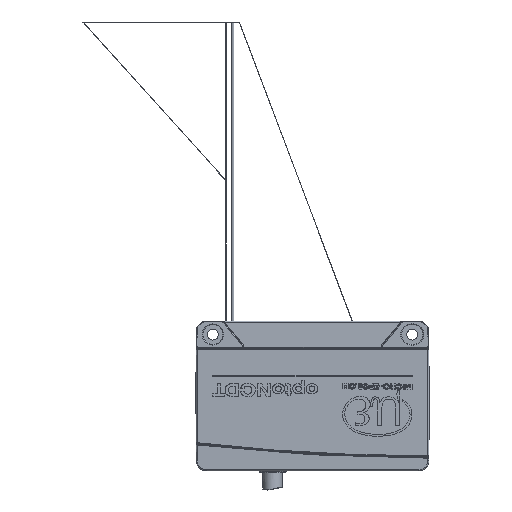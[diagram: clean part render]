
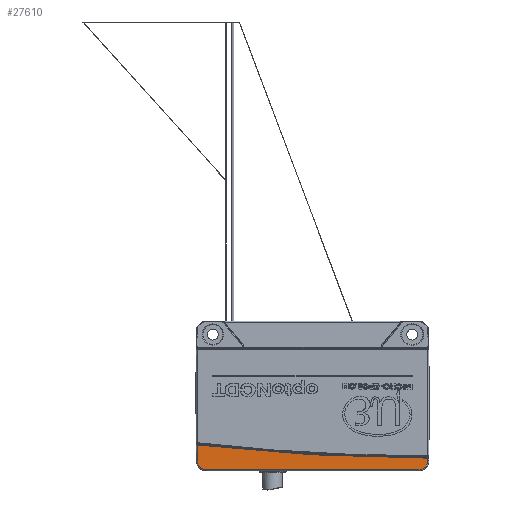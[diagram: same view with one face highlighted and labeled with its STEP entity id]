
A CAD part, front view. The second image highlights one B-rep face of the part: STEP entity #27610.
In plain terms, the highlighted planar face has unit normal (-0.001, -1, -0.017).
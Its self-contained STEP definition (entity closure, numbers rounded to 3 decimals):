
#638 = VECTOR ( 'NONE', #50498, 1000. ) ;
#824 = CARTESIAN_POINT ( 'NONE',  ( 32.005, -15.446, -36.705 ) ) ;
#1481 = PLANE ( 'NONE',  #95518 ) ;
#3250 = CARTESIAN_POINT ( 'NONE',  ( -32.09, -15.382, -36.701 ) ) ;
#4032 = CARTESIAN_POINT ( 'NONE',  ( -34.636, -15.426, -34.052 ) ) ;
#4921 = VERTEX_POINT ( 'NONE', #3250 ) ;
#7809 = VERTEX_POINT ( 'NONE', #92243 ) ;
#9380 = LINE ( 'NONE', #105182, #65754 ) ;
#11156 = CARTESIAN_POINT ( 'NONE',  ( -34.61, -15.4, -35.542 ) ) ;
#12405 = ORIENTED_EDGE ( 'NONE', *, *, #14207, .T. ) ;
#14207 = EDGE_CURVE ( 'NONE', #96913, #4921, #89131, .T. ) ;
#19128 = CARTESIAN_POINT ( 'NONE',  ( 32.005, -15.446, -36.705 ) ) ;
#20833 = DIRECTION ( 'NONE',  ( -0.001, -1., -0.017 ) ) ;
#22797 = CARTESIAN_POINT ( 'NONE',  ( -23.194, -15.498, -30.562 ) ) ;
#24507 = CARTESIAN_POINT ( 'NONE',  ( -34.636, -15.426, -34.052 ) ) ;
#26016 = CARTESIAN_POINT ( 'NONE',  ( 34.705, -15.495, -34.052 ) ) ;
#26493 = CARTESIAN_POINT ( 'NONE',  ( 33.565, -15.447, -36.705 ) ) ;
#27610 = ADVANCED_FACE ( 'NONE', ( #57757 ), #1481, .T. ) ;
#27814 = ORIENTED_EDGE ( 'NONE', *, *, #52130, .T. ) ;
#29843 = CARTESIAN_POINT ( 'NONE',  ( 0.46, -15.55, -28.929 ) ) ;
#32990 = DIRECTION ( 'NONE',  ( 1., -0.001, 0. ) ) ;
#33106 = CARTESIAN_POINT ( 'NONE',  ( 34.784, -15.574, -29.529 ) ) ;
#33160 = CARTESIAN_POINT ( 'NONE',  ( -34.714, -15.504, -29.543 ) ) ;
#34085 = CARTESIAN_POINT ( 'NONE',  ( -34.719, -15.509, -29.257 ) ) ;
#36761 = CARTESIAN_POINT ( 'NONE',  ( 34.705, -15.495, -34.052 ) ) ;
#40416 = EDGE_LOOP ( 'NONE', ( #112420, #49570, #112214, #12405, #27814, #92361, #77616 ) ) ;
#40516 = CARTESIAN_POINT ( 'NONE',  ( 23.121, -15.498, -33.19 ) ) ;
#41499 = VERTEX_POINT ( 'NONE', #19128 ) ;
#41673 = LINE ( 'NONE', #33106, #66895 ) ;
#42066 = CARTESIAN_POINT ( 'NONE',  ( -34.719, -15.509, -29.257 ) ) ;
#44166 = EDGE_CURVE ( 'NONE', #7809, #41499, #9380, .T. ) ;
#49570 = ORIENTED_EDGE ( 'NONE', *, *, #67655, .T. ) ;
#49668 = CARTESIAN_POINT ( 'NONE',  ( -31.936, -15.382, -36.705 ) ) ;
#50021 = CARTESIAN_POINT ( 'NONE',  ( -32.09, -15.382, -36.701 ) ) ;
#50335 = CARTESIAN_POINT ( 'NONE',  ( 34.72, -15.51, -33.196 ) ) ;
#50498 = DIRECTION ( 'NONE',  ( 0.017, 0.017, -1. ) ) ;
#52130 = EDGE_CURVE ( 'NONE', #4921, #7809, #75976, .T. ) ;
#52389 = VERTEX_POINT ( 'NONE', #53893 ) ;
#53893 = CARTESIAN_POINT ( 'NONE',  ( 34.72, -15.51, -33.196 ) ) ;
#54702 = VERTEX_POINT ( 'NONE', #34085 ) ;
#56722 = CARTESIAN_POINT ( 'NONE',  ( -32.038, -15.382, -36.704 ) ) ;
#57757 = FACE_OUTER_BOUND ( 'NONE', #40416, .T. ) ;
#58648 = CARTESIAN_POINT ( 'NONE',  ( 11.53, -15.493, -32.858 ) ) ;
#59032 = CARTESIAN_POINT ( 'NONE',  ( -11.639, -15.492, -31.544 ) ) ;
#65754 = VECTOR ( 'NONE', #32990, 1000. ) ;
#66895 = VECTOR ( 'NONE', #105311, 1000. ) ;
#67655 = EDGE_CURVE ( 'NONE', #52389, #54702, #78987, .T. ) ;
#74359 = EDGE_CURVE ( 'NONE', #104464, #52389, #41673, .T. ) ;
#75976 =( BOUNDED_CURVE ( )  B_SPLINE_CURVE ( 3, ( #50021, #56722, #113483, #49668 ),
 .UNSPECIFIED., .F., .T. ) 
 B_SPLINE_CURVE_WITH_KNOTS ( ( 4, 4 ),
 ( 0., 0.057 ),
 .UNSPECIFIED. ) 
 CURVE ( )  GEOMETRIC_REPRESENTATION_ITEM ( )  RATIONAL_B_SPLINE_CURVE ( ( 1., 1., 1., 1. ) ) 
 REPRESENTATION_ITEM ( '' )  );
#77616 = ORIENTED_EDGE ( 'NONE', *, *, #107580, .T. ) ;
#78987 = B_SPLINE_CURVE_WITH_KNOTS ( 'NONE', 3,
 ( #50335, #40516, #58648, #59032, #22797, #42066 ),
 .UNSPECIFIED., .F., .F.,
 ( 4, 2, 4 ),
 ( 0., 0.5, 1. ),
 .UNSPECIFIED. ) ;
#83394 = CARTESIAN_POINT ( 'NONE',  ( -32.09, -15.382, -36.701 ) ) ;
#83554 = DIRECTION ( 'NONE',  ( 0., -0.017, 1. ) ) ;
#89131 =( BOUNDED_CURVE ( )  B_SPLINE_CURVE ( 3, ( #4032, #11156, #110485, #83394 ),
 .UNSPECIFIED., .F., .F. ) 
 B_SPLINE_CURVE_WITH_KNOTS ( ( 4, 4 ),
 ( 4.787, 6.283 ),
 .UNSPECIFIED. ) 
 CURVE ( )  GEOMETRIC_REPRESENTATION_ITEM ( )  RATIONAL_B_SPLINE_CURVE ( ( 1., 0.822, 0.822, 1. ) ) 
 REPRESENTATION_ITEM ( '' )  );
#92243 = CARTESIAN_POINT ( 'NONE',  ( -31.936, -15.382, -36.705 ) ) ;
#92361 = ORIENTED_EDGE ( 'NONE', *, *, #44166, .T. ) ;
#95518 = AXIS2_PLACEMENT_3D ( 'NONE', #29843, #20833, #83554 ) ;
#96913 = VERTEX_POINT ( 'NONE', #24507 ) ;
#97822 = CARTESIAN_POINT ( 'NONE',  ( 34.678, -15.468, -35.612 ) ) ;
#100362 =( BOUNDED_CURVE ( )  B_SPLINE_CURVE ( 3, ( #824, #26493, #97822, #36761 ),
 .UNSPECIFIED., .F., .F. ) 
 B_SPLINE_CURVE_WITH_KNOTS ( ( 4, 4 ),
 ( 3.198, 4.752 ),
 .UNSPECIFIED. ) 
 CURVE ( )  GEOMETRIC_REPRESENTATION_ITEM ( )  RATIONAL_B_SPLINE_CURVE ( ( 1., 0.809, 0.809, 1. ) ) 
 REPRESENTATION_ITEM ( '' )  );
#104464 = VERTEX_POINT ( 'NONE', #26016 ) ;
#105182 = CARTESIAN_POINT ( 'NONE',  ( 0.46, -15.414, -36.705 ) ) ;
#105311 = DIRECTION ( 'NONE',  ( 0.017, -0.017, 1. ) ) ;
#106079 = LINE ( 'NONE', #33160, #638 ) ;
#107580 = EDGE_CURVE ( 'NONE', #41499, #104464, #100362, .T. ) ;
#110485 = CARTESIAN_POINT ( 'NONE',  ( -33.577, -15.382, -36.616 ) ) ;
#112214 = ORIENTED_EDGE ( 'NONE', *, *, #114644, .T. ) ;
#112420 = ORIENTED_EDGE ( 'NONE', *, *, #74359, .T. ) ;
#113483 = CARTESIAN_POINT ( 'NONE',  ( -31.987, -15.382, -36.705 ) ) ;
#114644 = EDGE_CURVE ( 'NONE', #54702, #96913, #106079, .T. ) ;
